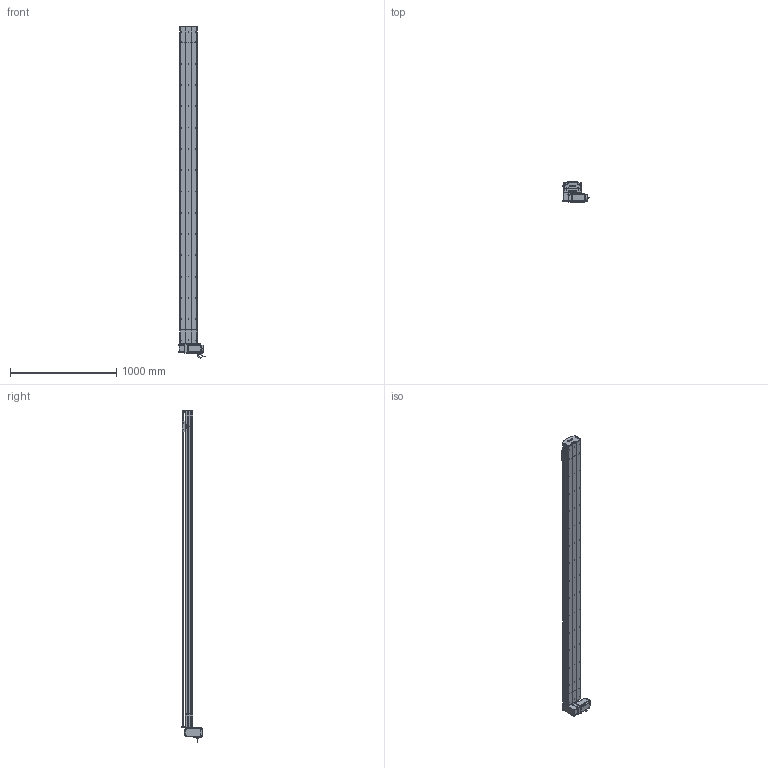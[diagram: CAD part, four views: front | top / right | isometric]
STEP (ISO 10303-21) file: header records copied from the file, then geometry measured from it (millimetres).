
FILE_DESCRIPTION (( 'STEP AP214' ), '1' );
FILE_NAME ('D17 TBN RU S2700.STEP', '2010-06-30T13:05:13', ( 'Conseil Régional Haute-Normandie' ), ( 'Conseil Régional Haute-Normandie' ), 'SwSTEP 2.0', 'SolidWorks 2010', '' );
FILE_SCHEMA (( 'AUTOMOTIVE_DESIGN' ));
Length unit declared in the file: millimetre
Products named in the file (40): Conecteur_Default; vis M5 L5_Default; codeur 90BLDC125-640; corps 90BLDC125A-640; avant 90BLDC125A-640; Moteur motionking 90BLDC125A-640; couroie head D17_Default; poulie head_Default; Conecteur2_Default; Chariot D17 TBN; chariot D17 TBN; vis M5 L25_Default; guide D17; vis M5 L12_Default; vis M5 L8 90°_Default; couvercle D17B_Default; Couroie tail D17B_Default; poulie tail_Default; plaque de  bout tail D17B_Default; Rail D17B; tete d''axe poulie D17B; corp tail D17B+100_Default; Tail D17B+100_Default; Renvoi RU_Default; cache arbre D17_Default; Vis M5 L16-2_Default; vis M5 L16_Default; Plaque racord D17_Default; vis M5 L70_Default; D17 TBN RU S2700; course 2700 D17B_Default; couvercle D17B course L2700_Default; corp D17B 2700_Default; Couroie+ rail D17 Course 2700 ; couvercle D17B head_Default; corpl head D17 _Default; Head RU D17B_Default; cache D17_Default; Arbre+rail head D17B; plaque de  bout head D17B RU_Default
Assembly tree (66 placements, depth 4):
  D17 TBN RU S2700
    chariot D17 TBN
      guide D17  x2
      Chariot D17 TBN
    Head RU D17B_Default
      vis M5 L12_Default  x8
      Arbre+rail head D17B
      cache arbre D17_Default
      vis M5 L16_Default  x2
      vis M5 L25_Default  x2
      couroie head D17_Default
      vis M5 L70_Default  x4
      vis M5 L5_Default  x4
      cache D17_Default  x2
      Vis M5 L16-2_Default  x4
      Renvoi RU_Default
      poulie head_Default
      Moteur motionking 90BLDC125A-640
        Conecteur2_Default
        codeur 90BLDC125-640
        avant 90BLDC125A-640
        corps 90BLDC125A-640
        Conecteur_Default
      corpl head D17 _Default
      Plaque racord D17_Default
      plaque de  bout head D17B RU_Default
      couvercle D17B head_Default
    Tail D17B+100_Default
      vis M5 L12_Default  x4
      tete d''axe poulie D17B
      vis M5 L25_Default  x2
      Rail D17B
      vis M5 L8 90°_Default  x2
      poulie tail_Default
      corp tail D17B+100_Default
      couvercle D17B_Default
      Couroie tail D17B_Default
      plaque de  bout tail D17B_Default
    course 2700 D17B_Default
      Couroie+ rail D17 Course 2700 
      corp D17B 2700_Default
      couvercle D17B course L2700_Default
Bounding box: 245.2 x 188.65 x 3117.95 mm (x, y, z)
Volume: 17765410.9 mm3; surface area: 5175855.7 mm2
Topology: 89 solids, 89 shells, 2643 faces, 6799 edges, 4382 vertices
Faces by surface type: plane 1537, cylinder 809, bspline 136, cone 80, torus 77, sphere 4
Entity records: 86109 total; most frequent: CARTESIAN_POINT 25517, ORIENTED_EDGE 10770, DIRECTION 10158, EDGE_CURVE 5385, VERTEX_POINT 3526, VECTOR 3524, LINE 3524, AXIS2_PLACEMENT_3D 3317
